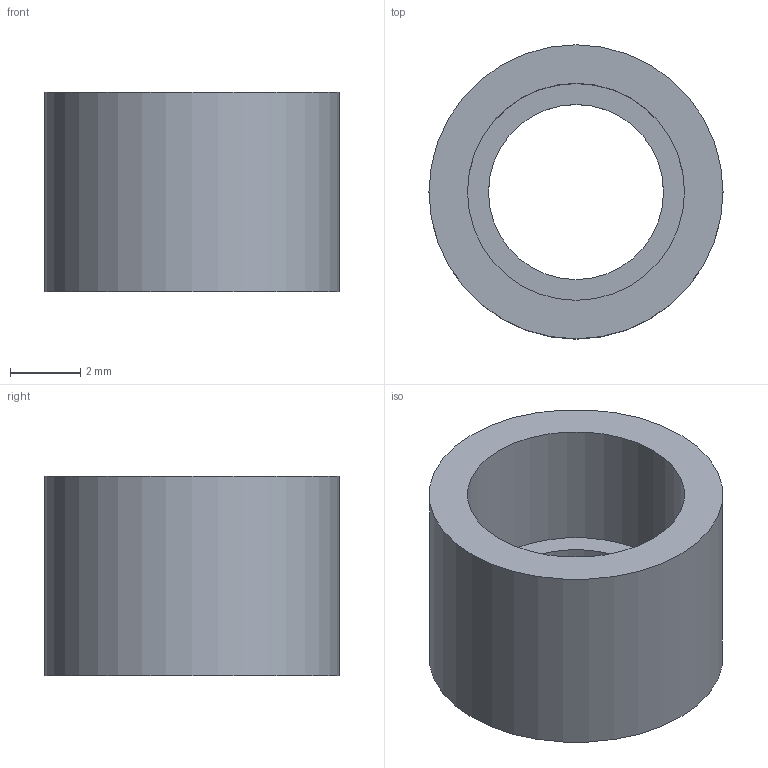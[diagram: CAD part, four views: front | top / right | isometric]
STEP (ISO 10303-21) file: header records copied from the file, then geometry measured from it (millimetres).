
FILE_DESCRIPTION(('Open CASCADE Model'),'2;1');
FILE_NAME('Open CASCADE Shape Model','2026-09-04T20:18:28',('Author'),( 'Open CASCADE'),'Open CASCADE STEP processor 7.7','Open CASCADE 7.7' ,'Unknown');
FILE_SCHEMA(('AUTOMOTIVE_DESIGN { 1 0 10303 214 1 1 1 1 }'));
Length unit declared in the file: millimetre
Products named in the file (1): Open CASCADE STEP translator 7.7 20
Bounding box: 8.4 x 8.4 x 5.7 mm (x, y, z)
Volume: 152.2 mm3; surface area: 330 mm2
Topology: 1 solids, 1 shells, 8 faces, 12 edges, 8 vertices
Faces by surface type: cylinder 4, plane 4
Full cylindrical faces by diameter (mm): 5 x1, 6.2 x2, 8.4 x1
Entity records: 366 total; most frequent: CARTESIAN_POINT 77, DIRECTION 58, ORIENTED_EDGE 24, PCURVE 24, DEFINITIONAL_REPRESENTATION 24, LINE 20, VECTOR 20, AXIS2_PLACEMENT_3D 17
